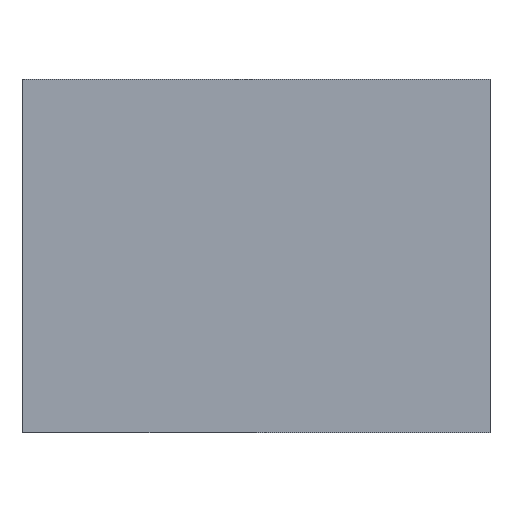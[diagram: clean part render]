
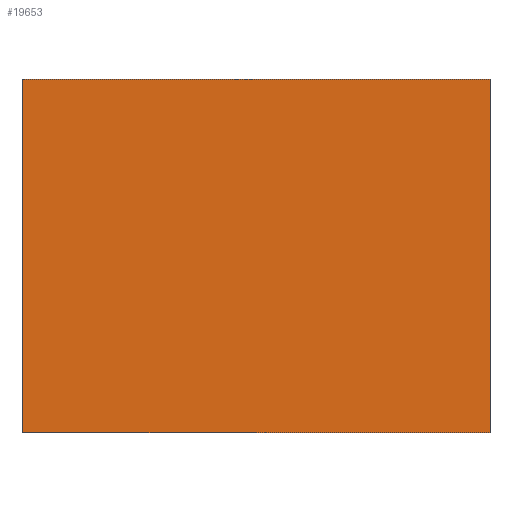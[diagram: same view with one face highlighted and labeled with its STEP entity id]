
A CAD part, front view. The second image highlights one B-rep face of the part: STEP entity #19653.
In plain terms, the highlighted planar face has unit normal (0, -1, 0).
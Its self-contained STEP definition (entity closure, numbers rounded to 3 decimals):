
#1193=PLANE('',#20732);
#1807=FACE_OUTER_BOUND('',#2859,.T.);
#2859=EDGE_LOOP('',(#12716,#12717,#12718,#12719));
#4024=LINE('',#25916,#5800);
#4025=LINE('',#25918,#5801);
#4026=LINE('',#25920,#5802);
#4027=LINE('',#25921,#5803);
#5800=VECTOR('',#21877,10.);
#5801=VECTOR('',#21878,10.);
#5802=VECTOR('',#21879,10.);
#5803=VECTOR('',#21880,10.);
#7910=VERTEX_POINT('',#25914);
#7911=VERTEX_POINT('',#25915);
#7912=VERTEX_POINT('',#25917);
#7913=VERTEX_POINT('',#25919);
#9840=EDGE_CURVE('',#7910,#7911,#4024,.T.);
#9841=EDGE_CURVE('',#7912,#7910,#4025,.T.);
#9842=EDGE_CURVE('',#7913,#7912,#4026,.T.);
#9843=EDGE_CURVE('',#7911,#7913,#4027,.T.);
#12716=ORIENTED_EDGE('',*,*,#9840,.F.);
#12717=ORIENTED_EDGE('',*,*,#9841,.F.);
#12718=ORIENTED_EDGE('',*,*,#9842,.F.);
#12719=ORIENTED_EDGE('',*,*,#9843,.F.);
#19653=ADVANCED_FACE('',(#1807),#1193,.T.);
#20732=AXIS2_PLACEMENT_3D('',#25913,#21875,#21876);
#21875=DIRECTION('center_axis',(0.,-1.,0.));
#21876=DIRECTION('ref_axis',(0.,0.,-1.));
#21877=DIRECTION('',(1.,0.,0.));
#21878=DIRECTION('',(0.,0.,1.));
#21879=DIRECTION('',(-1.,0.,0.));
#21880=DIRECTION('',(0.,0.,-1.));
#25913=CARTESIAN_POINT('Origin',(0.,-900.,21.5));
#25914=CARTESIAN_POINT('',(-162.85,-900.,144.55));
#25915=CARTESIAN_POINT('',(162.85,-900.,144.55));
#25916=CARTESIAN_POINT('',(162.85,-900.,144.55));
#25917=CARTESIAN_POINT('',(-162.85,-900.,-101.55));
#25918=CARTESIAN_POINT('',(-162.85,-900.,144.55));
#25919=CARTESIAN_POINT('',(162.85,-900.,-101.55));
#25920=CARTESIAN_POINT('',(-162.85,-900.,-101.55));
#25921=CARTESIAN_POINT('',(162.85,-900.,-101.55));
